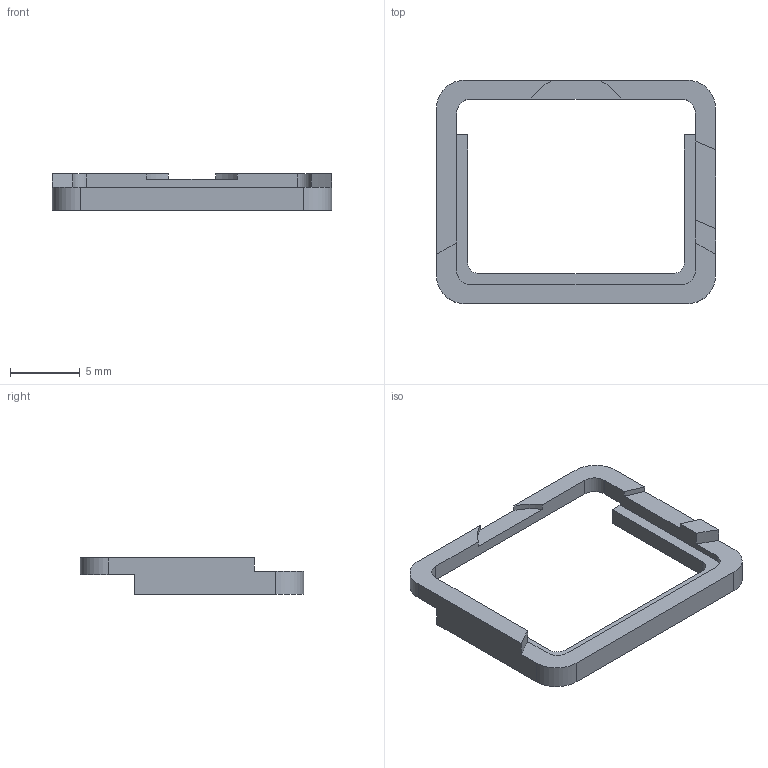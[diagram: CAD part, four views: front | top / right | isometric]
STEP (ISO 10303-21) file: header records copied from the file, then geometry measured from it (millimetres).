
FILE_DESCRIPTION(('Open CASCADE Model'),'2;1');
FILE_NAME('Open CASCADE Shape Model','2026-09-09T11:50:30',('Author'),( 'Open CASCADE'),'Open CASCADE STEP processor 7.7','Open CASCADE 7.7' ,'Unknown');
FILE_SCHEMA(('AUTOMOTIVE_DESIGN { 1 0 10303 214 1 1 1 1 }'));
Length unit declared in the file: millimetre
Products named in the file (1): Open CASCADE STEP translator 7.7 18
Bounding box: 20 x 16 x 2.6 mm (x, y, z)
Volume: 185.2 mm3; surface area: 459 mm2
Topology: 1 solids, 1 shells, 38 faces, 114 edges, 76 vertices
Faces by surface type: plane 24, cylinder 14
Entity records: 2792 total; most frequent: CARTESIAN_POINT 501, DIRECTION 434, LINE 278, VECTOR 278, ORIENTED_EDGE 228, PCURVE 228, DEFINITIONAL_REPRESENTATION 228, EDGE_CURVE 114
